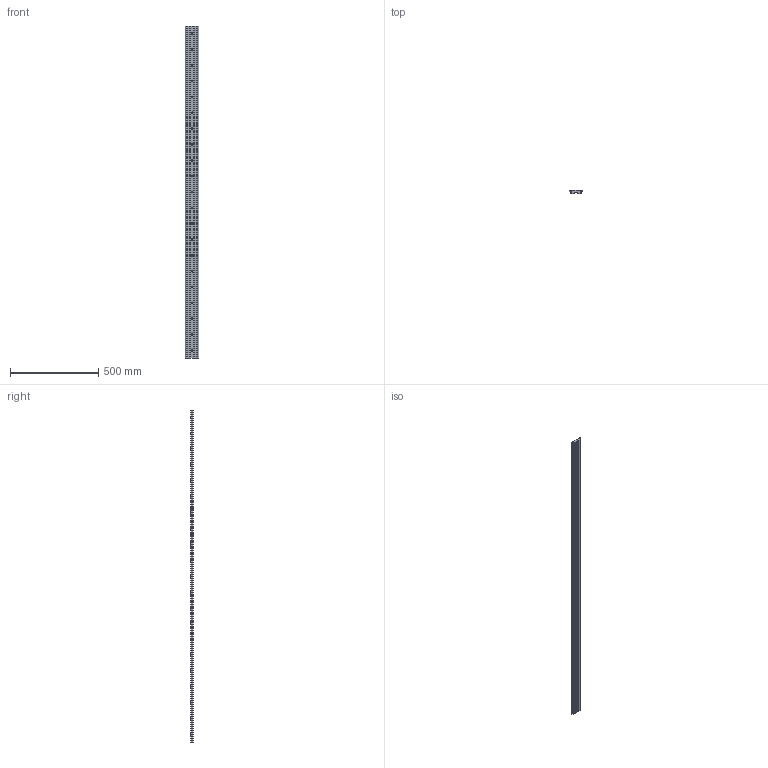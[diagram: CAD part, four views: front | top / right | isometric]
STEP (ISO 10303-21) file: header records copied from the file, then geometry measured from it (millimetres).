
FILE_DESCRIPTION(('STEP AP203'),'1');
FILE_NAME('slide_nm76l1886p1.stp','2022-07-01T04:43:25',('TraceParts'),('TraceParts S.A.'),'Spatial InterOp 3D',' ',' ');
FILE_SCHEMA(('CONFIG_CONTROL_DESIGN'));
Length unit declared in the file: millimetre
Products named in the file (1): 1
Bounding box: 75.61 x 15.5 x 1886 mm (x, y, z)
Volume: 1641802.8 mm3; surface area: 358604.3 mm2
Topology: 1 solids, 1 shells, 145 faces, 366 edges, 244 vertices
Faces by surface type: cylinder 98, plane 47
Entity records: 4584 total; most frequent: DIRECTION 854, CARTESIAN_POINT 756, ORIENTED_EDGE 732, EDGE_CURVE 366, AXIS2_PLACEMENT_3D 342, VERTEX_POINT 244, EDGE_LOOP 208, CIRCLE 196
